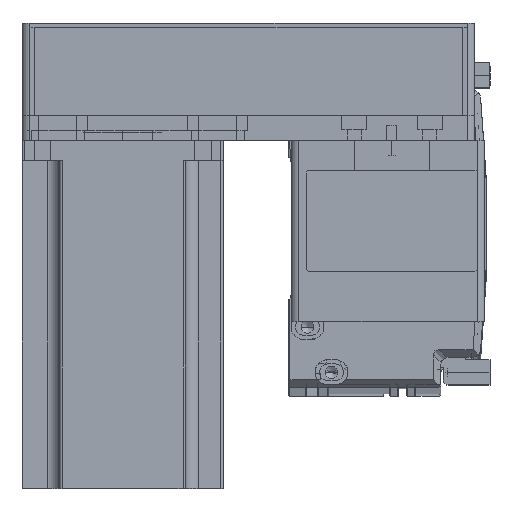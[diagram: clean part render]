
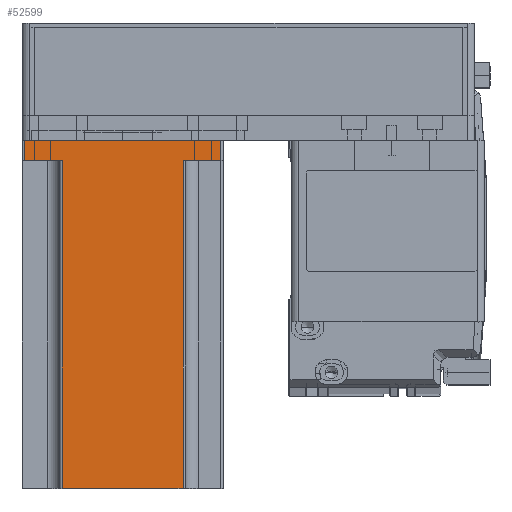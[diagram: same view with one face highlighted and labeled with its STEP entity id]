
A CAD part, top view. The second image highlights one B-rep face of the part: STEP entity #52599.
In plain terms, the highlighted planar face has unit normal (0, 0, 1) as drawn and (0, 1, 0) by its records, which use the part's own axes.
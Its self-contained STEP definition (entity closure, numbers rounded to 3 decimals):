
#343 = FACE_OUTER_BOUND ( 'NONE', #12144, .T. ) ;
#469 = AXIS2_PLACEMENT_3D ( 'NONE', #3222, #36743, #7990 ) ;
#623 = DIRECTION ( 'NONE',  ( -1., 0., 0. ) ) ;
#3222 = CARTESIAN_POINT ( 'NONE',  ( 40., 40., 138.3 ) ) ;
#5195 = LINE ( 'NONE', #5300, #54695 ) ;
#5300 = CARTESIAN_POINT ( 'NONE',  ( -25., 40., 8. ) ) ;
#6329 = CARTESIAN_POINT ( 'NONE',  ( -24., 40., 138.3 ) ) ;
#6423 = EDGE_CURVE ( 'NONE', #60267, #50569, #5195, .T. ) ;
#7990 = DIRECTION ( 'NONE',  ( 1., 0., 0. ) ) ;
#9020 = VECTOR ( 'NONE', #55029, 1000. ) ;
#9751 = VECTOR ( 'NONE', #39861, 1000. ) ;
#10688 = ORIENTED_EDGE ( 'NONE', *, *, #26188, .T. ) ;
#10869 = ORIENTED_EDGE ( 'NONE', *, *, #15314, .F. ) ;
#11515 = EDGE_CURVE ( 'NONE', #50569, #12425, #35259, .T. ) ;
#12110 = ORIENTED_EDGE ( 'NONE', *, *, #27318, .T. ) ;
#12117 = VECTOR ( 'NONE', #623, 1000. ) ;
#12144 = EDGE_LOOP ( 'NONE', ( #44137, #14053, #10869, #12110, #61154, #10688, #18832, #54661 ) ) ;
#12425 = VERTEX_POINT ( 'NONE', #25911 ) ;
#12601 = PLANE ( 'NONE',  #469 ) ;
#14053 = ORIENTED_EDGE ( 'NONE', *, *, #11515, .T. ) ;
#14183 = CARTESIAN_POINT ( 'NONE',  ( -39., 40., 8. ) ) ;
#15314 = EDGE_CURVE ( 'NONE', #34321, #12425, #22414, .T. ) ;
#15967 = EDGE_CURVE ( 'NONE', #58882, #47409, #49991, .T. ) ;
#17081 = CARTESIAN_POINT ( 'NONE',  ( 40., 40., 138.3 ) ) ;
#17352 = CARTESIAN_POINT ( 'NONE',  ( 39., 40., 0. ) ) ;
#18731 = DIRECTION ( 'NONE',  ( 0., 0., -1. ) ) ;
#18832 = ORIENTED_EDGE ( 'NONE', *, *, #15967, .T. ) ;
#21289 = LINE ( 'NONE', #56877, #34048 ) ;
#22414 = LINE ( 'NONE', #17081, #46356 ) ;
#24307 = CARTESIAN_POINT ( 'NONE',  ( -39., 40., 0. ) ) ;
#24329 = CARTESIAN_POINT ( 'NONE',  ( 24., 40., 138.3 ) ) ;
#24477 = CARTESIAN_POINT ( 'NONE',  ( 25., 40., 8. ) ) ;
#24515 = VECTOR ( 'NONE', #58677, 1000. ) ;
#25911 = CARTESIAN_POINT ( 'NONE',  ( -24., 40., 138.3 ) ) ;
#26188 = EDGE_CURVE ( 'NONE', #57036, #58882, #21289, .T. ) ;
#26392 = LINE ( 'NONE', #24477, #12117 ) ;
#27318 = EDGE_CURVE ( 'NONE', #34321, #30783, #28632, .T. ) ;
#28632 = LINE ( 'NONE', #28702, #30133 ) ;
#28702 = CARTESIAN_POINT ( 'NONE',  ( 24., 40., 138.3 ) ) ;
#29959 = CARTESIAN_POINT ( 'NONE',  ( 40., 40., 0. ) ) ;
#30133 = VECTOR ( 'NONE', #33313, 1000. ) ;
#30783 = VERTEX_POINT ( 'NONE', #61803 ) ;
#33313 = DIRECTION ( 'NONE',  ( 0., 0., -1. ) ) ;
#34044 = DIRECTION ( 'NONE',  ( 1., 0., 0. ) ) ;
#34048 = VECTOR ( 'NONE', #18731, 1000. ) ;
#34321 = VERTEX_POINT ( 'NONE', #24329 ) ;
#35259 = LINE ( 'NONE', #6329, #9751 ) ;
#36743 = DIRECTION ( 'NONE',  ( 0., -1., 0. ) ) ;
#37218 = CARTESIAN_POINT ( 'NONE',  ( 39., 40., 8. ) ) ;
#39861 = DIRECTION ( 'NONE',  ( 0., 0., 1. ) ) ;
#44137 = ORIENTED_EDGE ( 'NONE', *, *, #6423, .T. ) ;
#45342 = CARTESIAN_POINT ( 'NONE',  ( -39., 40., 138.3 ) ) ;
#45974 = DIRECTION ( 'NONE',  ( -1., 0., 0. ) ) ;
#46356 = VECTOR ( 'NONE', #45974, 1000. ) ;
#47361 = CARTESIAN_POINT ( 'NONE',  ( -24., 40., 8. ) ) ;
#47409 = VERTEX_POINT ( 'NONE', #24307 ) ;
#49898 = EDGE_CURVE ( 'NONE', #47409, #60267, #58545, .T. ) ;
#49991 = LINE ( 'NONE', #29959, #24515 ) ;
#50569 = VERTEX_POINT ( 'NONE', #47361 ) ;
#52599 = ADVANCED_FACE ( 'NONE', ( #343 ), #12601, .F. ) ;
#53510 = EDGE_CURVE ( 'NONE', #57036, #30783, #26392, .T. ) ;
#54661 = ORIENTED_EDGE ( 'NONE', *, *, #49898, .T. ) ;
#54695 = VECTOR ( 'NONE', #34044, 1000. ) ;
#55029 = DIRECTION ( 'NONE',  ( 0., 0., 1. ) ) ;
#56877 = CARTESIAN_POINT ( 'NONE',  ( 39., 40., 138.3 ) ) ;
#57036 = VERTEX_POINT ( 'NONE', #37218 ) ;
#58545 = LINE ( 'NONE', #45342, #9020 ) ;
#58677 = DIRECTION ( 'NONE',  ( -1., 0., 0. ) ) ;
#58882 = VERTEX_POINT ( 'NONE', #17352 ) ;
#60267 = VERTEX_POINT ( 'NONE', #14183 ) ;
#61154 = ORIENTED_EDGE ( 'NONE', *, *, #53510, .F. ) ;
#61803 = CARTESIAN_POINT ( 'NONE',  ( 24., 40., 8. ) ) ;
